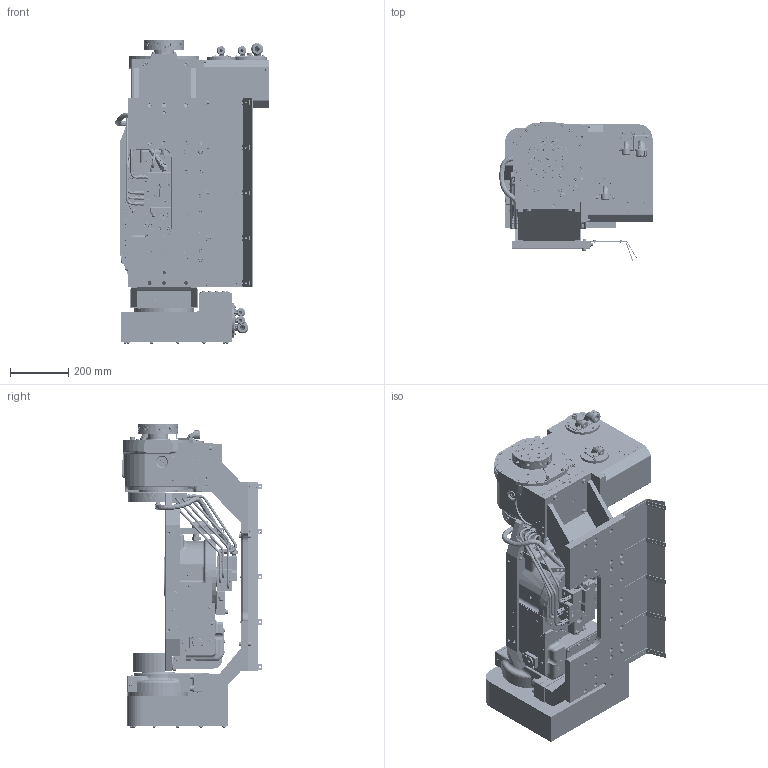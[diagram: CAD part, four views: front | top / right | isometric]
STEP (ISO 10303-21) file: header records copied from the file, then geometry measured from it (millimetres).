
FILE_DESCRIPTION (( 'STEP AP214' ), '1' );
FILE_NAME ('DHP-61E700642.STEP', '2026-08-08T01:27:45', ( '' ), ( '' ), 'SwSTEP 2.0', 'SolidWorks 2022', '' );
FILE_SCHEMA (( 'AUTOMOTIVE_DESIGN' ));
Length unit declared in the file: millimetre
Products named in the file (134): 0263214500_平面外圧用_RKT500A00; 073GBA0008; 61E868184; 61E448856; 069GGA0094; 0158000005; 040AZA0001; ホースPA0306-GG^61E700645; 0030108040; 0263201000_平面内圧用; 61E445674; 61E430247; 61E700644_デフォルト(61E298605）<ﾏｼﾝ加工>; 0030105010; 61E871257; 0030106055; 61E867542; 0030106020; 0030105014; 0080011020; 0285004010; 0030105012; 61E867535; 61E118826; 61E483959; 0263108000_平面外圧用; 040AZA0002; 0263201400_平面内圧用; 0150010500; 042CYA0002; 0263201800_平面内圧用; 043ACA0012; 0030106012; 017ACA0001_PL2.3取付時; 61E296469; 025BYA0001_円筒用; 61E494443; Part2^61E700643; 0150010600; 61E119291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
Assembly tree (508 placements, depth 4):
  61E864626^61E700645
  DHP-61E700642
    61E871117
      61E871121
      61E867401
      61E118160
      61E118159
      61E119291
      61E118163
      61E118162
      61E119292
      61E868192
      61E295298
      61E868193
      61M495028  x2
        61M419875
        0030106012
      61E430246  x3
      61E430247  x3
      61E448855
    61E871257
      0030110045  x4
      0080011020
      0030105012  x5
      0150010500  x5
      008DAA0002  x10
      0150010400  x10
      008DEA0022  x2
      073GBA0008  x2
      61E118826
      61E871258  x5
      61E871259
      61E448373  x2
      61E445567  x2
    61E494515
      61E445844
      0158000005  x3
      008CZA0038  x3
      0263211200_平面内圧用
      0158010014
      044ENA0002_直接取付
      008CZA0020  x8
      0150010400  x8
      073CAA0025
      073CAA0026
    61E494516  x2
      073CAA0025
      61E494004
      008CZA0038
      0158000005
      0263209000_平面内圧用
      008CZA0020
      0150010400
    61E494515
      61E445844
      0158000005  x3
      008CZA0038  x3
      0263211200_平面内圧用
      0158010014
      044ENA0002_直接取付
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Bounding box: 526.37 x 482.66 x 1042.24 mm (x, y, z)
Volume: 40392512.1 mm3; surface area: 6431295.1 mm2
Topology: 597 solids, 597 shells, 20276 faces, 53957 edges, 36077 vertices
Faces by surface type: plane 8629, cylinder 5702, cone 4489, bspline 734, torus 542, sphere 180
Entity records: 533177 total; most frequent: CARTESIAN_POINT 165979, ORIENTED_EDGE 65870, DIRECTION 63114, EDGE_CURVE 32935, AXIS2_PLACEMENT_3D 23302, VERTEX_POINT 22279, LINE 16510, VECTOR 16510
